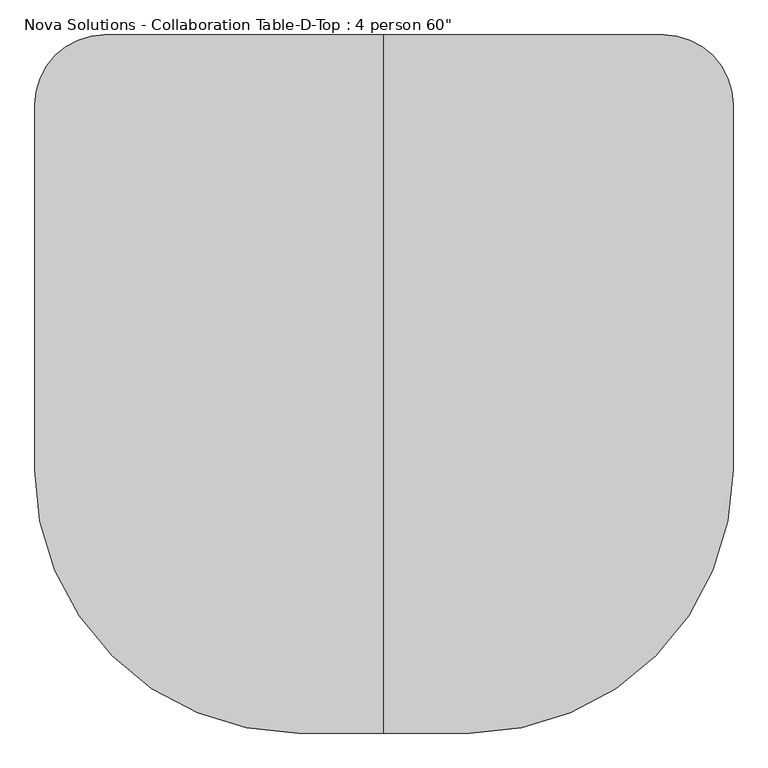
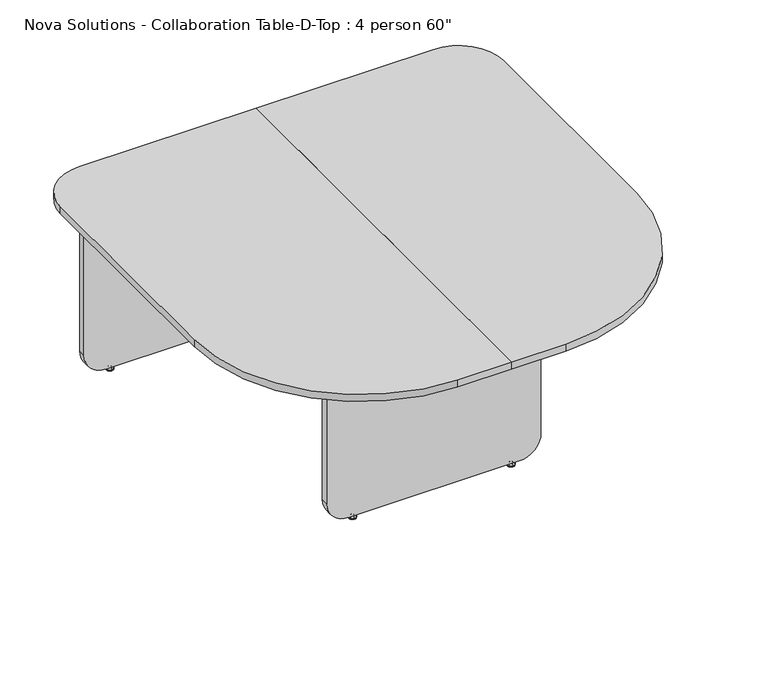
"""IFC4 building model written with IfcOpenShell, lengths in millimetres: furniture geometry."""

from ifc_helpers import new_model, si_unit, point, frame, frame_2d, origin, place, context, project, spatial, polyline, circle_curve, ellipse_curve, trimmed, segment, composite_curve, outline, extrude, source, transform, mapped, element, save
from ifc_brep_helpers import plane_surface, cylinder_surface, revolved_surface, advanced_brep


def furniture_20b06302(model_context):
    return source(origin(), model_context, "Body", "SolidModel", [
        extrude(outline(polyline([(-136.57, 733.4), (-136.57, -271.3), (-152.77, -271.3), (-152.77, 733.4), (-136.57, 733.4)])), frame((0.0, 0.0, 181.85), z_axis=(0.0, 0.0, 1.0), x_axis=(1.0, 0.0, 0.0)), (0.0, 0.0, 1.0), 553.0),
        extrude(outline(polyline([(136.57, 733.4), (152.77, 733.4), (152.77, -271.3), (136.57, -271.3), (136.57, 733.4)])), frame((0.0, 0.0, 181.85), z_axis=(0.0, 0.0, 1.0), x_axis=(1.0, 0.0, 0.0)), (0.0, 0.0, 1.0), 553.0),
        advanced_brep(
        [(513.4578125, 752.9276506, 11.1125), (513.4578125, 739.5723494, 11.1125), (513.4578125, 746.25, 11.1125), (513.4578125, 752.9276506, 9.525), (513.4578125, 739.5723494, 9.525), (513.4578125, 758.1355135, 4.7748687), (513.4578125, 734.3644865, 4.7748687), (513.4578125, 758.9966506, 3.989419), (513.4578125, 733.5033494, 3.989419), (513.4578125, 758.9966506, 3.175), (513.4578125, 733.5033494, 3.175), (513.4578125, 758.1459119, 0.0), (513.4578125, 734.3540881, 0.0), (513.4578125, 746.25, 0.0)],
        [
            (0, 1, circle_curve(frame((513.4578125, 746.25, 11.1125), z_axis=(0.0, 0.0, 1.0), x_axis=(0.0, -1.0, 0.0)), 6.6776506)),
            (1, 2),
            (2, 0),
            (1, 0, circle_curve(frame((513.4578125, 746.25, 11.1125), z_axis=(0.0, 0.0, 1.0), x_axis=(0.0, -1.0, 0.0)), 6.6776506)),
            (3, 4, circle_curve(frame((513.4578125, 746.25, 9.525), z_axis=(0.0, 0.0, 1.0), x_axis=(0.0, -1.0, 0.0)), 6.6776506)),
            (4, 1),
            (0, 3),
            (4, 3, circle_curve(frame((513.4578125, 746.25, 9.525), z_axis=(0.0, 0.0, 1.0), x_axis=(0.0, -1.0, 0.0)), 6.6776506)),
            (5, 6, circle_curve(frame((513.4578125, 746.25, 4.7748687), z_axis=(0.0, 0.0, 1.0), x_axis=(0.0, -1.0, 0.0)), 11.8855135)),
            (6, 4, circle_curve(frame((513.4578125, 733.3179373, 11.1521822), z_axis=(1.0, 0.0, 0.0), x_axis=(0.0, 1.0, 0.0)), 6.462615)),
            (3, 5, circle_curve(frame((513.4578125, 759.1820627, 11.1521822), z_axis=(1.0, 0.0, 0.0), x_axis=(0.0, -1.0, 0.0)), 6.462615)),
            (6, 5, circle_curve(frame((513.4578125, 746.25, 4.7748687), z_axis=(0.0, 0.0, 1.0), x_axis=(0.0, -1.0, 0.0)), 11.8855135)),
            (7, 8, circle_curve(frame((513.4578125, 746.25, 3.989419), z_axis=(0.0, 0.0, 1.0), x_axis=(0.0, -1.0, 0.0)), 12.7466506)),
            (8, 6, circle_curve(frame((513.4578125, 734.5375368, 3.7203591), z_axis=(-1.0, 0.0, 0.0), x_axis=(0.0, 1.0, 0.0)), 1.0686145)),
            (5, 7, circle_curve(frame((513.4578125, 757.9624632, 3.7203591), z_axis=(-1.0, 0.0, 0.0), x_axis=(0.0, -1.0, 0.0)), 1.0686145)),
            (8, 7, circle_curve(frame((513.4578125, 746.25, 3.989419), z_axis=(0.0, 0.0, 1.0), x_axis=(0.0, -1.0, 0.0)), 12.7466506)),
            (9, 10, circle_curve(frame((513.4578125, 746.25, 3.175), z_axis=(0.0, 0.0, 1.0), x_axis=(0.0, -1.0, 0.0)), 12.7466506)),
            (10, 8),
            (7, 9),
            (10, 9, circle_curve(frame((513.4578125, 746.25, 3.175), z_axis=(0.0, 0.0, 1.0), x_axis=(0.0, -1.0, 0.0)), 12.7466506)),
            (11, 12, circle_curve(frame((513.4578125, 746.25, 0.0), z_axis=(0.0, 0.0, 1.0), x_axis=(0.0, -1.0, 0.0)), 11.8959119)),
            (12, 10),
            (9, 11),
            (12, 11, circle_curve(frame((513.4578125, 746.25, 0.0), z_axis=(0.0, 0.0, 1.0), x_axis=(0.0, -1.0, 0.0)), 11.8959119)),
            (13, 12),
            (11, 13),
        ],
        [
            plane_surface(frame((513.4578125, 746.25, 11.1125), z_axis=(0.0, 0.0, 1.0), x_axis=(0.0, -1.0, 0.0))),
            cylinder_surface(frame((513.4578125, 746.25, 43.2095994), z_axis=(0.0, 0.0, -1.0), x_axis=(0.0, -1.0, 0.0)), 6.6776506),
            revolved_surface(trimmed(ellipse_curve(frame((513.4578125, 733.3179373, 11.1521822), z_axis=(-1.0, 0.0, 0.0), x_axis=(0.0, 1.0, 0.0)), 6.462615, 6.462615), [point((513.4578125, 739.5723494, 9.525))], [point((513.4578125, 734.3644865, 4.7748687))], True, "CARTESIAN"), (513.4578125, 746.25, 43.2095994), (0.0, 0.0, -1.0)),
            revolved_surface(trimmed(ellipse_curve(frame((513.4578125, 734.5375368, 3.7203591), z_axis=(1.0, 0.0, 0.0), x_axis=(0.0, 1.0, 0.0)), 1.0686145, 1.0686145), [point((513.4578125, 734.3644865, 4.7748687))], [point((513.4578125, 733.5033494, 3.989419))], True, "CARTESIAN"), (513.4578125, 746.25, 43.2095994), (0.0, 0.0, -1.0)),
            cylinder_surface(frame((513.4578125, 746.25, 43.2095994), z_axis=(0.0, 0.0, -1.0), x_axis=(0.0, -1.0, 0.0)), 12.7466506),
            revolved_surface(polyline([(513.4578125, 733.5033494, 3.175), (513.4578125, 734.3540881, 0.0)]), (513.4578125, 746.25, 43.2095994), (0.0, 0.0, -1.0)),
            plane_surface(frame((513.4578125, 746.25, 0.0), z_axis=(0.0, 0.0, -1.0), x_axis=(0.0, -1.0, 0.0))),
        ],
        [
            (0, [[1, 2, 3]]),
            (0, [[4, -3, -2]]),
            (1, [[5, 6, -1, 7]]),
            (1, [[8, -7, -4, -6]]),
            (2, [[9, 10, -5, 11]]),
            (2, [[12, -11, -8, -10]]),
            (3, [[13, 14, -9, 15]]),
            (3, [[16, -15, -12, -14]]),
            (4, [[17, 18, -13, 19]]),
            (4, [[20, -19, -16, -18]]),
            (5, [[21, 22, -17, 23]]),
            (5, [[24, -23, -20, -22]]),
            (6, [[25, -21, 26]]),
            (6, [[-26, -24, -25]]),
        ],
    ),
        advanced_brep(
        [(-513.4578125, 752.9276506, 11.1125), (-513.4578125, 739.5723494, 11.1125), (-513.4578125, 746.25, 11.1125), (-513.4578125, 752.9276506, 9.525), (-513.4578125, 739.5723494, 9.525), (-513.4578125, 758.1355135, 4.7748687), (-513.4578125, 734.3644865, 4.7748687), (-513.4578125, 758.9966506, 3.989419), (-513.4578125, 733.5033494, 3.989419), (-513.4578125, 758.9966506, 3.175), (-513.4578125, 733.5033494, 3.175), (-513.4578125, 758.1459119, 0.0), (-513.4578125, 734.3540881, 0.0), (-513.4578125, 746.25, 0.0)],
        [
            (0, 1, circle_curve(frame((-513.4578125, 746.25, 11.1125), z_axis=(0.0, 0.0, 1.0), x_axis=(0.0, -1.0, 0.0)), 6.6776506)),
            (1, 2),
            (2, 0),
            (1, 0, circle_curve(frame((-513.4578125, 746.25, 11.1125), z_axis=(0.0, 0.0, 1.0), x_axis=(0.0, -1.0, 0.0)), 6.6776506)),
            (3, 4, circle_curve(frame((-513.4578125, 746.25, 9.525), z_axis=(0.0, 0.0, 1.0), x_axis=(0.0, -1.0, 0.0)), 6.6776506)),
            (4, 1),
            (0, 3),
            (4, 3, circle_curve(frame((-513.4578125, 746.25, 9.525), z_axis=(0.0, 0.0, 1.0), x_axis=(0.0, -1.0, 0.0)), 6.6776506)),
            (5, 6, circle_curve(frame((-513.4578125, 746.25, 4.7748687), z_axis=(0.0, 0.0, 1.0), x_axis=(0.0, -1.0, 0.0)), 11.8855135)),
            (6, 4, circle_curve(frame((-513.4578125, 733.3179373, 11.1521822), z_axis=(1.0, 0.0, 0.0), x_axis=(0.0, 1.0, 0.0)), 6.462615)),
            (3, 5, circle_curve(frame((-513.4578125, 759.1820627, 11.1521822), z_axis=(1.0, 0.0, 0.0), x_axis=(0.0, -1.0, 0.0)), 6.462615)),
            (6, 5, circle_curve(frame((-513.4578125, 746.25, 4.7748687), z_axis=(0.0, 0.0, 1.0), x_axis=(0.0, -1.0, 0.0)), 11.8855135)),
            (7, 8, circle_curve(frame((-513.4578125, 746.25, 3.989419), z_axis=(0.0, 0.0, 1.0), x_axis=(0.0, -1.0, 0.0)), 12.7466506)),
            (8, 6, circle_curve(frame((-513.4578125, 734.5375368, 3.7203591), z_axis=(-1.0, 0.0, 0.0), x_axis=(0.0, 1.0, 0.0)), 1.0686145)),
            (5, 7, circle_curve(frame((-513.4578125, 757.9624632, 3.7203591), z_axis=(-1.0, 0.0, 0.0), x_axis=(0.0, -1.0, 0.0)), 1.0686145)),
            (8, 7, circle_curve(frame((-513.4578125, 746.25, 3.989419), z_axis=(0.0, 0.0, 1.0), x_axis=(0.0, -1.0, 0.0)), 12.7466506)),
            (9, 10, circle_curve(frame((-513.4578125, 746.25, 3.175), z_axis=(0.0, 0.0, 1.0), x_axis=(0.0, -1.0, 0.0)), 12.7466506)),
            (10, 8),
            (7, 9),
            (10, 9, circle_curve(frame((-513.4578125, 746.25, 3.175), z_axis=(0.0, 0.0, 1.0), x_axis=(0.0, -1.0, 0.0)), 12.7466506)),
            (11, 12, circle_curve(frame((-513.4578125, 746.25, 0.0), z_axis=(0.0, 0.0, 1.0), x_axis=(0.0, -1.0, 0.0)), 11.8959119)),
            (12, 10),
            (9, 11),
            (12, 11, circle_curve(frame((-513.4578125, 746.25, 0.0), z_axis=(0.0, 0.0, 1.0), x_axis=(0.0, -1.0, 0.0)), 11.8959119)),
            (13, 12),
            (11, 13),
        ],
        [
            plane_surface(frame((-513.4578125, 746.25, 11.1125), z_axis=(0.0, 0.0, 1.0), x_axis=(0.0, -1.0, 0.0))),
            cylinder_surface(frame((-513.4578125, 746.25, 43.2095994), z_axis=(0.0, 0.0, -1.0), x_axis=(0.0, -1.0, 0.0)), 6.6776506),
            revolved_surface(trimmed(ellipse_curve(frame((-513.4578125, 733.3179373, 11.1521822), z_axis=(-1.0, 0.0, 0.0), x_axis=(0.0, 1.0, 0.0)), 6.462615, 6.462615), [point((-513.4578125, 739.5723494, 9.525))], [point((-513.4578125, 734.3644865, 4.7748687))], True, "CARTESIAN"), (-513.4578125, 746.25, 43.2095994), (0.0, 0.0, -1.0)),
            revolved_surface(trimmed(ellipse_curve(frame((-513.4578125, 734.5375368, 3.7203591), z_axis=(1.0, 0.0, 0.0), x_axis=(0.0, 1.0, 0.0)), 1.0686145, 1.0686145), [point((-513.4578125, 734.3644865, 4.7748687))], [point((-513.4578125, 733.5033494, 3.989419))], True, "CARTESIAN"), (-513.4578125, 746.25, 43.2095994), (0.0, 0.0, -1.0)),
            cylinder_surface(frame((-513.4578125, 746.25, 43.2095994), z_axis=(0.0, 0.0, -1.0), x_axis=(0.0, -1.0, 0.0)), 12.7466506),
            revolved_surface(polyline([(-513.4578125, 733.5033494, 3.175), (-513.4578125, 734.3540881, 0.0)]), (-513.4578125, 746.25, 43.2095994), (0.0, 0.0, -1.0)),
            plane_surface(frame((-513.4578125, 746.25, 0.0), z_axis=(0.0, 0.0, -1.0), x_axis=(0.0, -1.0, 0.0))),
        ],
        [
            (0, [[1, 2, 3]]),
            (0, [[4, -3, -2]]),
            (1, [[5, 6, -1, 7]]),
            (1, [[8, -7, -4, -6]]),
            (2, [[9, 10, -5, 11]]),
            (2, [[12, -11, -8, -10]]),
            (3, [[13, 14, -9, 15]]),
            (3, [[16, -15, -12, -14]]),
            (4, [[17, 18, -13, 19]]),
            (4, [[20, -19, -16, -18]]),
            (5, [[21, 22, -17, 23]]),
            (5, [[24, -23, -20, -22]]),
            (6, [[25, -21, 26]]),
            (6, [[-26, -24, -25]]),
        ],
    ),
        extrude(outline(composite_curve([segment(polyline([(734.85, 609.5), (734.85, -609.5), (90.15, -609.5)]), True, "CONTINUOUS"), segment(trimmed(circle_curve(frame_2d((90.15, -533.5)), 76.0), [point((90.15, -609.5))], [point((14.15, -533.5))], False, "CARTESIAN"), True, "CONTINUOUS"), segment(polyline([(14.15, -533.5), (14.15, 533.5)]), True, "CONTINUOUS"), segment(trimmed(circle_curve(frame_2d((90.15, 533.5)), 76.0), [point((14.15, 533.5))], [point((90.15, 609.5))], False, "CARTESIAN"), True, "CONTINUOUS"), segment(polyline([(90.15, 609.5), (734.85, 609.5)]), True, "CONTINUOUS")], self_intersect=False)), frame((0.0, 733.4, 0.0), z_axis=(0.0, 1.0, 0.0), x_axis=(0.0, 0.0, 1.0)), (0.0, 0.0, 1.0), 25.7),
        advanced_brep(
        [(272.9578125, -277.4723494, 11.1125), (272.9578125, -290.8276506, 11.1125), (272.9578125, -284.15, 11.1125), (272.9578125, -277.4723494, 9.525), (272.9578125, -290.8276506, 9.525), (272.9578125, -272.2644865, 4.7748687), (272.9578125, -296.0355135, 4.7748687), (272.9578125, -271.4033494, 3.989419), (272.9578125, -296.8966506, 3.989419), (272.9578125, -271.4033494, 3.175), (272.9578125, -296.8966506, 3.175), (272.9578125, -272.2540881, 0.0), (272.9578125, -296.0459119, 0.0), (272.9578125, -284.15, 0.0)],
        [
            (0, 1, circle_curve(frame((272.9578125, -284.15, 11.1125), z_axis=(0.0, 0.0, 1.0), x_axis=(0.0, -1.0, 0.0)), 6.6776506)),
            (1, 2),
            (2, 0),
            (1, 0, circle_curve(frame((272.9578125, -284.15, 11.1125), z_axis=(0.0, 0.0, 1.0), x_axis=(0.0, -1.0, 0.0)), 6.6776506)),
            (3, 4, circle_curve(frame((272.9578125, -284.15, 9.525), z_axis=(0.0, 0.0, 1.0), x_axis=(0.0, -1.0, 0.0)), 6.6776506)),
            (4, 1),
            (0, 3),
            (4, 3, circle_curve(frame((272.9578125, -284.15, 9.525), z_axis=(0.0, 0.0, 1.0), x_axis=(0.0, -1.0, 0.0)), 6.6776506)),
            (5, 6, circle_curve(frame((272.9578125, -284.15, 4.7748687), z_axis=(0.0, 0.0, 1.0), x_axis=(0.0, -1.0, 0.0)), 11.8855135)),
            (6, 4, circle_curve(frame((272.9578125, -297.0820627, 11.1521822), z_axis=(1.0, 0.0, 0.0), x_axis=(0.0, 1.0, 0.0)), 6.462615)),
            (3, 5, circle_curve(frame((272.9578125, -271.2179373, 11.1521822), z_axis=(1.0, 0.0, 0.0), x_axis=(0.0, -1.0, 0.0)), 6.462615)),
            (6, 5, circle_curve(frame((272.9578125, -284.15, 4.7748687), z_axis=(0.0, 0.0, 1.0), x_axis=(0.0, -1.0, 0.0)), 11.8855135)),
            (7, 8, circle_curve(frame((272.9578125, -284.15, 3.989419), z_axis=(0.0, 0.0, 1.0), x_axis=(0.0, -1.0, 0.0)), 12.7466506)),
            (8, 6, circle_curve(frame((272.9578125, -295.8624632, 3.7203591), z_axis=(-1.0, 0.0, 0.0), x_axis=(0.0, 1.0, 0.0)), 1.0686145)),
            (5, 7, circle_curve(frame((272.9578125, -272.4375368, 3.7203591), z_axis=(-1.0, 0.0, 0.0), x_axis=(0.0, -1.0, 0.0)), 1.0686145)),
            (8, 7, circle_curve(frame((272.9578125, -284.15, 3.989419), z_axis=(0.0, 0.0, 1.0), x_axis=(0.0, -1.0, 0.0)), 12.7466506)),
            (9, 10, circle_curve(frame((272.9578125, -284.15, 3.175), z_axis=(0.0, 0.0, 1.0), x_axis=(0.0, -1.0, 0.0)), 12.7466506)),
            (10, 8),
            (7, 9),
            (10, 9, circle_curve(frame((272.9578125, -284.15, 3.175), z_axis=(0.0, 0.0, 1.0), x_axis=(0.0, -1.0, 0.0)), 12.7466506)),
            (11, 12, circle_curve(frame((272.9578125, -284.15, 0.0), z_axis=(0.0, 0.0, 1.0), x_axis=(0.0, -1.0, 0.0)), 11.8959119)),
            (12, 10),
            (9, 11),
            (12, 11, circle_curve(frame((272.9578125, -284.15, 0.0), z_axis=(0.0, 0.0, 1.0), x_axis=(0.0, -1.0, 0.0)), 11.8959119)),
            (13, 12),
            (11, 13),
        ],
        [
            plane_surface(frame((272.9578125, -284.15, 11.1125), z_axis=(0.0, 0.0, 1.0), x_axis=(0.0, -1.0, 0.0))),
            cylinder_surface(frame((272.9578125, -284.15, 43.2095994), z_axis=(0.0, 0.0, -1.0), x_axis=(0.0, -1.0, 0.0)), 6.6776506),
            revolved_surface(trimmed(ellipse_curve(frame((272.9578125, -297.0820627, 11.1521822), z_axis=(-1.0, 0.0, 0.0), x_axis=(0.0, 1.0, 0.0)), 6.462615, 6.462615), [point((272.9578125, -290.8276506, 9.525))], [point((272.9578125, -296.0355135, 4.7748687))], True, "CARTESIAN"), (272.9578125, -284.15, 43.2095994), (0.0, 0.0, -1.0)),
            revolved_surface(trimmed(ellipse_curve(frame((272.9578125, -295.8624632, 3.7203591), z_axis=(1.0, 0.0, 0.0), x_axis=(0.0, 1.0, 0.0)), 1.0686145, 1.0686145), [point((272.9578125, -296.0355135, 4.7748687))], [point((272.9578125, -296.8966506, 3.989419))], True, "CARTESIAN"), (272.9578125, -284.15, 43.2095994), (0.0, 0.0, -1.0)),
            cylinder_surface(frame((272.9578125, -284.15, 43.2095994), z_axis=(0.0, 0.0, -1.0), x_axis=(0.0, -1.0, 0.0)), 12.7466506),
            revolved_surface(polyline([(272.9578125, -296.8966506, 3.175), (272.9578125, -296.0459119, 0.0)]), (272.9578125, -284.15, 43.2095994), (0.0, 0.0, -1.0)),
            plane_surface(frame((272.9578125, -284.15, 0.0), z_axis=(0.0, 0.0, -1.0), x_axis=(0.0, -1.0, 0.0))),
        ],
        [
            (0, [[1, 2, 3]]),
            (0, [[4, -3, -2]]),
            (1, [[5, 6, -1, 7]]),
            (1, [[8, -7, -4, -6]]),
            (2, [[9, 10, -5, 11]]),
            (2, [[12, -11, -8, -10]]),
            (3, [[13, 14, -9, 15]]),
            (3, [[16, -15, -12, -14]]),
            (4, [[17, 18, -13, 19]]),
            (4, [[20, -19, -16, -18]]),
            (5, [[21, 22, -17, 23]]),
            (5, [[24, -23, -20, -22]]),
            (6, [[25, -21, 26]]),
            (6, [[-26, -24, -25]]),
        ],
    ),
        advanced_brep(
        [(-272.9578125, -277.4723494, 11.1125), (-272.9578125, -290.8276506, 11.1125), (-272.9578125, -284.15, 11.1125), (-272.9578125, -277.4723494, 9.525), (-272.9578125, -290.8276506, 9.525), (-272.9578125, -272.2644865, 4.7748687), (-272.9578125, -296.0355135, 4.7748687), (-272.9578125, -271.4033494, 3.989419), (-272.9578125, -296.8966506, 3.989419), (-272.9578125, -271.4033494, 3.175), (-272.9578125, -296.8966506, 3.175), (-272.9578125, -272.2540881, 0.0), (-272.9578125, -296.0459119, 0.0), (-272.9578125, -284.15, 0.0)],
        [
            (0, 1, circle_curve(frame((-272.9578125, -284.15, 11.1125), z_axis=(0.0, 0.0, 1.0), x_axis=(0.0, -1.0, 0.0)), 6.6776506)),
            (1, 2),
            (2, 0),
            (1, 0, circle_curve(frame((-272.9578125, -284.15, 11.1125), z_axis=(0.0, 0.0, 1.0), x_axis=(0.0, -1.0, 0.0)), 6.6776506)),
            (3, 4, circle_curve(frame((-272.9578125, -284.15, 9.525), z_axis=(0.0, 0.0, 1.0), x_axis=(0.0, -1.0, 0.0)), 6.6776506)),
            (4, 1),
            (0, 3),
            (4, 3, circle_curve(frame((-272.9578125, -284.15, 9.525), z_axis=(0.0, 0.0, 1.0), x_axis=(0.0, -1.0, 0.0)), 6.6776506)),
            (5, 6, circle_curve(frame((-272.9578125, -284.15, 4.7748687), z_axis=(0.0, 0.0, 1.0), x_axis=(0.0, -1.0, 0.0)), 11.8855135)),
            (6, 4, circle_curve(frame((-272.9578125, -297.0820627, 11.1521822), z_axis=(1.0, 0.0, 0.0), x_axis=(0.0, 1.0, 0.0)), 6.462615)),
            (3, 5, circle_curve(frame((-272.9578125, -271.2179373, 11.1521822), z_axis=(1.0, 0.0, 0.0), x_axis=(0.0, -1.0, 0.0)), 6.462615)),
            (6, 5, circle_curve(frame((-272.9578125, -284.15, 4.7748687), z_axis=(0.0, 0.0, 1.0), x_axis=(0.0, -1.0, 0.0)), 11.8855135)),
            (7, 8, circle_curve(frame((-272.9578125, -284.15, 3.989419), z_axis=(0.0, 0.0, 1.0), x_axis=(0.0, -1.0, 0.0)), 12.7466506)),
            (8, 6, circle_curve(frame((-272.9578125, -295.8624632, 3.7203591), z_axis=(-1.0, 0.0, 0.0), x_axis=(0.0, 1.0, 0.0)), 1.0686145)),
            (5, 7, circle_curve(frame((-272.9578125, -272.4375368, 3.7203591), z_axis=(-1.0, 0.0, 0.0), x_axis=(0.0, -1.0, 0.0)), 1.0686145)),
            (8, 7, circle_curve(frame((-272.9578125, -284.15, 3.989419), z_axis=(0.0, 0.0, 1.0), x_axis=(0.0, -1.0, 0.0)), 12.7466506)),
            (9, 10, circle_curve(frame((-272.9578125, -284.15, 3.175), z_axis=(0.0, 0.0, 1.0), x_axis=(0.0, -1.0, 0.0)), 12.7466506)),
            (10, 8),
            (7, 9),
            (10, 9, circle_curve(frame((-272.9578125, -284.15, 3.175), z_axis=(0.0, 0.0, 1.0), x_axis=(0.0, -1.0, 0.0)), 12.7466506)),
            (11, 12, circle_curve(frame((-272.9578125, -284.15, 0.0), z_axis=(0.0, 0.0, 1.0), x_axis=(0.0, -1.0, 0.0)), 11.8959119)),
            (12, 10),
            (9, 11),
            (12, 11, circle_curve(frame((-272.9578125, -284.15, 0.0), z_axis=(0.0, 0.0, 1.0), x_axis=(0.0, -1.0, 0.0)), 11.8959119)),
            (13, 12),
            (11, 13),
        ],
        [
            plane_surface(frame((-272.9578125, -284.15, 11.1125), z_axis=(0.0, 0.0, 1.0), x_axis=(0.0, -1.0, 0.0))),
            cylinder_surface(frame((-272.9578125, -284.15, 43.2095994), z_axis=(0.0, 0.0, -1.0), x_axis=(0.0, -1.0, 0.0)), 6.6776506),
            revolved_surface(trimmed(ellipse_curve(frame((-272.9578125, -297.0820627, 11.1521822), z_axis=(-1.0, 0.0, 0.0), x_axis=(0.0, 1.0, 0.0)), 6.462615, 6.462615), [point((-272.9578125, -290.8276506, 9.525))], [point((-272.9578125, -296.0355135, 4.7748687))], True, "CARTESIAN"), (-272.9578125, -284.15, 43.2095994), (0.0, 0.0, -1.0)),
            revolved_surface(trimmed(ellipse_curve(frame((-272.9578125, -295.8624632, 3.7203591), z_axis=(1.0, 0.0, 0.0), x_axis=(0.0, 1.0, 0.0)), 1.0686145, 1.0686145), [point((-272.9578125, -296.0355135, 4.7748687))], [point((-272.9578125, -296.8966506, 3.989419))], True, "CARTESIAN"), (-272.9578125, -284.15, 43.2095994), (0.0, 0.0, -1.0)),
            cylinder_surface(frame((-272.9578125, -284.15, 43.2095994), z_axis=(0.0, 0.0, -1.0), x_axis=(0.0, -1.0, 0.0)), 12.7466506),
            revolved_surface(polyline([(-272.9578125, -296.8966506, 3.175), (-272.9578125, -296.0459119, 0.0)]), (-272.9578125, -284.15, 43.2095994), (0.0, 0.0, -1.0)),
            plane_surface(frame((-272.9578125, -284.15, 0.0), z_axis=(0.0, 0.0, -1.0), x_axis=(0.0, -1.0, 0.0))),
        ],
        [
            (0, [[1, 2, 3]]),
            (0, [[4, -3, -2]]),
            (1, [[5, 6, -1, 7]]),
            (1, [[8, -7, -4, -6]]),
            (2, [[9, 10, -5, 11]]),
            (2, [[12, -11, -8, -10]]),
            (3, [[13, 14, -9, 15]]),
            (3, [[16, -15, -12, -14]]),
            (4, [[17, 18, -13, 19]]),
            (4, [[20, -19, -16, -18]]),
            (5, [[21, 22, -17, 23]]),
            (5, [[24, -23, -20, -22]]),
            (6, [[25, -21, 26]]),
            (6, [[-26, -24, -25]]),
        ],
    ),
        extrude(outline(composite_curve([segment(polyline([(734.85, 369.0), (734.85, -369.0), (90.15, -369.0)]), True, "CONTINUOUS"), segment(trimmed(circle_curve(frame_2d((90.15, -293.0)), 76.0), [point((90.15, -369.0))], [point((14.15, -293.0))], False, "CARTESIAN"), True, "CONTINUOUS"), segment(polyline([(14.15, -293.0), (14.15, 293.0)]), True, "CONTINUOUS"), segment(trimmed(circle_curve(frame_2d((90.15, 293.0)), 76.0), [point((14.15, 293.0))], [point((90.15, 369.0))], False, "CARTESIAN"), True, "CONTINUOUS"), segment(polyline([(90.15, 369.0), (734.85, 369.0)]), True, "CONTINUOUS")], self_intersect=False)), frame((0.0, -297.0, 0.0), z_axis=(0.0, 1.0, 0.0), x_axis=(0.0, 0.0, 1.0)), (0.0, 0.0, 1.0), 25.7),
        extrude(outline(composite_curve([segment(trimmed(circle_curve(frame_2d((187.0, -187.0)), 575.0), [point((762.0, -187.0))], [point((187.0, -762.0))], False, "CARTESIAN"), True, "CONTINUOUS"), segment(polyline([(187.0, -762.0), (0.0, -762.0), (0.0, 762.0), (609.6, 762.0)]), True, "CONTINUOUS"), segment(trimmed(circle_curve(frame_2d((609.6, 609.6)), 152.4), [point((609.6, 762.0))], [point((762.0, 609.6))], False, "CARTESIAN"), True, "CONTINUOUS"), segment(polyline([(762.0, 609.6), (762.0, -187.0)]), True, "CONTINUOUS")], self_intersect=False)), frame((0.0, 0.0, 734.85), z_axis=(0.0, 0.0, 1.0), x_axis=(1.0, 0.0, 0.0)), (0.0, 0.0, 1.0), 25.7),
        extrude(outline(composite_curve([segment(polyline([(0.0, 762.0), (0.0, -762.0), (-187.0, -762.0)]), True, "CONTINUOUS"), segment(trimmed(circle_curve(frame_2d((-187.0, -187.0)), 575.0), [point((-187.0, -762.0))], [point((-762.0, -187.0))], False, "CARTESIAN"), True, "CONTINUOUS"), segment(polyline([(-762.0, -187.0), (-762.0, 609.6)]), True, "CONTINUOUS"), segment(trimmed(circle_curve(frame_2d((-609.6, 609.6)), 152.4), [point((-762.0, 609.6))], [point((-609.6, 762.0))], False, "CARTESIAN"), True, "CONTINUOUS"), segment(polyline([(-609.6, 762.0), (0.0, 762.0)]), True, "CONTINUOUS")], self_intersect=False)), frame((0.0, 0.0, 734.85), z_axis=(0.0, 0.0, 1.0), x_axis=(1.0, 0.0, 0.0)), (0.0, 0.0, 1.0), 25.7),
    ])


if __name__ == "__main__":
    model = new_model("IFC4")
    model_context = context("Model", 3, world=origin())
    ifc_project = project(units=[si_unit("LENGTHUNIT", "METRE", prefix="MILLI")], contexts=[model_context])
    site = spatial("IfcSite", under=ifc_project)
    building = spatial("IfcBuilding", under=site)
    placement = place(None, origin())
    furniture_shape = furniture_20b06302(model_context)
    element("IfcFurniture", 1, ObjectType="Nova Solutions - Collaboration Table-D-Top : 4 person 60\"", at=placement, inside=building, context=model_context, shape_type="MappedRepresentation", body=[
        mapped(furniture_shape, transform((0.0, 0.0, 0.0), x_axis=(1.0, 0.0, 0.0), y_axis=(0.0, 1.0, 0.0), z_axis=(0.0, 0.0, 1.0))),
    ])
    save(model, "model.ifc")
